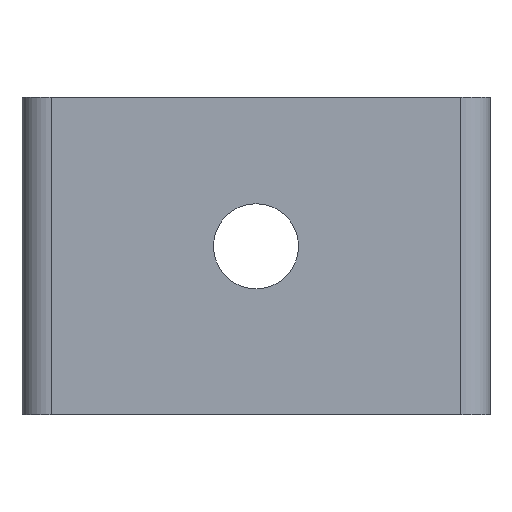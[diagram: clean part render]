
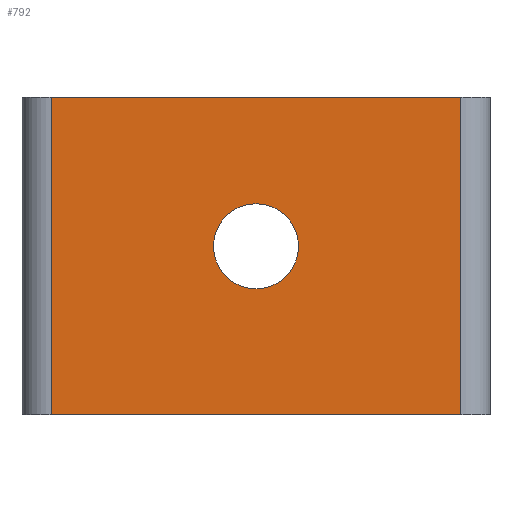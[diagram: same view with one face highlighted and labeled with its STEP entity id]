
A CAD part, front view. The second image highlights one B-rep face of the part: STEP entity #792.
In plain terms, the highlighted planar face has unit normal (0, -1, 0).
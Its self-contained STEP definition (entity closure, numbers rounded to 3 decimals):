
#44 = PLANE('',#45);
#45 = AXIS2_PLACEMENT_3D('',#46,#47,#48);
#46 = CARTESIAN_POINT('',(-2.1,-47.2,16.4));
#47 = DIRECTION('',(0.,0.,1.));
#48 = DIRECTION('',(1.,0.,0.));
#72 = CYLINDRICAL_SURFACE('',#73,1.5);
#73 = AXIS2_PLACEMENT_3D('',#74,#75,#76);
#74 = CARTESIAN_POINT('',(-0.6,-45.7,0.));
#75 = DIRECTION('',(0.,0.,1.));
#76 = DIRECTION('',(-1.,-0.,0.));
#100 = PLANE('',#101);
#101 = AXIS2_PLACEMENT_3D('',#102,#103,#104);
#102 = CARTESIAN_POINT('',(-2.1,-47.2,0.));
#103 = DIRECTION('',(0.,0.,1.));
#104 = DIRECTION('',(1.,0.,0.));
#143 = VERTEX_POINT('',#144);
#144 = CARTESIAN_POINT('',(-0.6,-47.2,16.4));
#166 = EDGE_CURVE('',#143,#167,#169,.T.);
#167 = VERTEX_POINT('',#168);
#168 = CARTESIAN_POINT('',(20.6,-47.2,16.4));
#169 = SURFACE_CURVE('',#170,(#174,#181),.PCURVE_S1.);
#170 = LINE('',#171,#172);
#171 = CARTESIAN_POINT('',(-2.1,-47.2,16.4));
#172 = VECTOR('',#173,1.);
#173 = DIRECTION('',(1.,0.,0.));
#174 = PCURVE('',#44,#175);
#175 = DEFINITIONAL_REPRESENTATION('',(#176),#180);
#176 = LINE('',#177,#178);
#177 = CARTESIAN_POINT('',(0.,0.));
#178 = VECTOR('',#179,1.);
#179 = DIRECTION('',(1.,0.));
#180 = ( GEOMETRIC_REPRESENTATION_CONTEXT(2) 
PARAMETRIC_REPRESENTATION_CONTEXT() REPRESENTATION_CONTEXT('2D SPACE',''
  ) );
#181 = PCURVE('',#182,#187);
#182 = PLANE('',#183);
#183 = AXIS2_PLACEMENT_3D('',#184,#185,#186);
#184 = CARTESIAN_POINT('',(-2.1,-47.2,0.));
#185 = DIRECTION('',(0.,1.,0.));
#186 = DIRECTION('',(0.,0.,1.));
#187 = DEFINITIONAL_REPRESENTATION('',(#188),#192);
#188 = LINE('',#189,#190);
#189 = CARTESIAN_POINT('',(16.4,0.));
#190 = VECTOR('',#191,1.);
#191 = DIRECTION('',(0.,1.));
#192 = ( GEOMETRIC_REPRESENTATION_CONTEXT(2) 
PARAMETRIC_REPRESENTATION_CONTEXT() REPRESENTATION_CONTEXT('2D SPACE',''
  ) );
#215 = CYLINDRICAL_SURFACE('',#216,1.5);
#216 = AXIS2_PLACEMENT_3D('',#217,#218,#219);
#217 = CARTESIAN_POINT('',(20.6,-45.7,0.));
#218 = DIRECTION('',(0.,0.,1.));
#219 = DIRECTION('',(1.,0.,-0.));
#454 = VERTEX_POINT('',#455);
#455 = CARTESIAN_POINT('',(-0.6,-47.2,0.));
#477 = EDGE_CURVE('',#454,#143,#478,.T.);
#478 = SURFACE_CURVE('',#479,(#483,#490),.PCURVE_S1.);
#479 = LINE('',#480,#481);
#480 = CARTESIAN_POINT('',(-0.6,-47.2,0.));
#481 = VECTOR('',#482,1.);
#482 = DIRECTION('',(0.,0.,1.));
#483 = PCURVE('',#72,#484);
#484 = DEFINITIONAL_REPRESENTATION('',(#485),#489);
#485 = LINE('',#486,#487);
#486 = CARTESIAN_POINT('',(1.571,0.));
#487 = VECTOR('',#488,1.);
#488 = DIRECTION('',(0.,1.));
#489 = ( GEOMETRIC_REPRESENTATION_CONTEXT(2) 
PARAMETRIC_REPRESENTATION_CONTEXT() REPRESENTATION_CONTEXT('2D SPACE',''
  ) );
#490 = PCURVE('',#182,#491);
#491 = DEFINITIONAL_REPRESENTATION('',(#492),#496);
#492 = LINE('',#493,#494);
#493 = CARTESIAN_POINT('',(0.,1.5));
#494 = VECTOR('',#495,1.);
#495 = DIRECTION('',(1.,0.));
#496 = ( GEOMETRIC_REPRESENTATION_CONTEXT(2) 
PARAMETRIC_REPRESENTATION_CONTEXT() REPRESENTATION_CONTEXT('2D SPACE',''
  ) );
#673 = EDGE_CURVE('',#454,#674,#676,.T.);
#674 = VERTEX_POINT('',#675);
#675 = CARTESIAN_POINT('',(20.6,-47.2,0.));
#676 = SURFACE_CURVE('',#677,(#681,#688),.PCURVE_S1.);
#677 = LINE('',#678,#679);
#678 = CARTESIAN_POINT('',(-2.1,-47.2,0.));
#679 = VECTOR('',#680,1.);
#680 = DIRECTION('',(1.,0.,0.));
#681 = PCURVE('',#100,#682);
#682 = DEFINITIONAL_REPRESENTATION('',(#683),#687);
#683 = LINE('',#684,#685);
#684 = CARTESIAN_POINT('',(0.,0.));
#685 = VECTOR('',#686,1.);
#686 = DIRECTION('',(1.,0.));
#687 = ( GEOMETRIC_REPRESENTATION_CONTEXT(2) 
PARAMETRIC_REPRESENTATION_CONTEXT() REPRESENTATION_CONTEXT('2D SPACE',''
  ) );
#688 = PCURVE('',#182,#689);
#689 = DEFINITIONAL_REPRESENTATION('',(#690),#694);
#690 = LINE('',#691,#692);
#691 = CARTESIAN_POINT('',(0.,0.));
#692 = VECTOR('',#693,1.);
#693 = DIRECTION('',(0.,1.));
#694 = ( GEOMETRIC_REPRESENTATION_CONTEXT(2) 
PARAMETRIC_REPRESENTATION_CONTEXT() REPRESENTATION_CONTEXT('2D SPACE',''
  ) );
#792 = ADVANCED_FACE('',(#793,#819),#182,.F.);
#793 = FACE_BOUND('',#794,.F.);
#794 = EDGE_LOOP('',(#795,#796,#797,#798));
#795 = ORIENTED_EDGE('',*,*,#673,.F.);
#796 = ORIENTED_EDGE('',*,*,#477,.T.);
#797 = ORIENTED_EDGE('',*,*,#166,.T.);
#798 = ORIENTED_EDGE('',*,*,#799,.F.);
#799 = EDGE_CURVE('',#674,#167,#800,.T.);
#800 = SURFACE_CURVE('',#801,(#805,#812),.PCURVE_S1.);
#801 = LINE('',#802,#803);
#802 = CARTESIAN_POINT('',(20.6,-47.2,0.));
#803 = VECTOR('',#804,1.);
#804 = DIRECTION('',(0.,0.,1.));
#805 = PCURVE('',#182,#806);
#806 = DEFINITIONAL_REPRESENTATION('',(#807),#811);
#807 = LINE('',#808,#809);
#808 = CARTESIAN_POINT('',(0.,22.7));
#809 = VECTOR('',#810,1.);
#810 = DIRECTION('',(1.,0.));
#811 = ( GEOMETRIC_REPRESENTATION_CONTEXT(2) 
PARAMETRIC_REPRESENTATION_CONTEXT() REPRESENTATION_CONTEXT('2D SPACE',''
  ) );
#812 = PCURVE('',#215,#813);
#813 = DEFINITIONAL_REPRESENTATION('',(#814),#818);
#814 = LINE('',#815,#816);
#815 = CARTESIAN_POINT('',(-1.571,0.));
#816 = VECTOR('',#817,1.);
#817 = DIRECTION('',(-0.,1.));
#818 = ( GEOMETRIC_REPRESENTATION_CONTEXT(2) 
PARAMETRIC_REPRESENTATION_CONTEXT() REPRESENTATION_CONTEXT('2D SPACE',''
  ) );
#819 = FACE_BOUND('',#820,.F.);
#820 = EDGE_LOOP('',(#821));
#821 = ORIENTED_EDGE('',*,*,#822,.T.);
#822 = EDGE_CURVE('',#823,#823,#825,.T.);
#823 = VERTEX_POINT('',#824);
#824 = CARTESIAN_POINT('',(12.2,-47.2,8.7));
#825 = SURFACE_CURVE('',#826,(#831,#842),.PCURVE_S1.);
#826 = CIRCLE('',#827,2.2);
#827 = AXIS2_PLACEMENT_3D('',#828,#829,#830);
#828 = CARTESIAN_POINT('',(10.,-47.2,8.7));
#829 = DIRECTION('',(0.,-1.,-0.));
#830 = DIRECTION('',(1.,0.,0.));
#831 = PCURVE('',#182,#832);
#832 = DEFINITIONAL_REPRESENTATION('',(#833),#841);
#833 = ( BOUNDED_CURVE() B_SPLINE_CURVE(2,(#834,#835,#836,#837,#838,#839
,#840),.UNSPECIFIED.,.T.,.F.) B_SPLINE_CURVE_WITH_KNOTS((1,2,2,2,2,1),(
    -2.094,0.,2.094,4.189,6.283,
8.378),.UNSPECIFIED.) CURVE() GEOMETRIC_REPRESENTATION_ITEM() 
RATIONAL_B_SPLINE_CURVE((1.,0.5,1.,0.5,1.,0.5,1.)) REPRESENTATION_ITEM(
  '') );
#834 = CARTESIAN_POINT('',(8.7,14.3));
#835 = CARTESIAN_POINT('',(12.511,14.3));
#836 = CARTESIAN_POINT('',(10.605,11.));
#837 = CARTESIAN_POINT('',(8.7,7.7));
#838 = CARTESIAN_POINT('',(6.795,11.));
#839 = CARTESIAN_POINT('',(4.889,14.3));
#840 = CARTESIAN_POINT('',(8.7,14.3));
#841 = ( GEOMETRIC_REPRESENTATION_CONTEXT(2) 
PARAMETRIC_REPRESENTATION_CONTEXT() REPRESENTATION_CONTEXT('2D SPACE',''
  ) );
#842 = PCURVE('',#843,#848);
#843 = CYLINDRICAL_SURFACE('',#844,2.2);
#844 = AXIS2_PLACEMENT_3D('',#845,#846,#847);
#845 = CARTESIAN_POINT('',(10.,-47.3,8.7));
#846 = DIRECTION('',(0.,-1.,-0.));
#847 = DIRECTION('',(1.,0.,0.));
#848 = DEFINITIONAL_REPRESENTATION('',(#849),#853);
#849 = LINE('',#850,#851);
#850 = CARTESIAN_POINT('',(-6.283,-0.1));
#851 = VECTOR('',#852,1.);
#852 = DIRECTION('',(1.,-0.));
#853 = ( GEOMETRIC_REPRESENTATION_CONTEXT(2) 
PARAMETRIC_REPRESENTATION_CONTEXT() REPRESENTATION_CONTEXT('2D SPACE',''
  ) );
